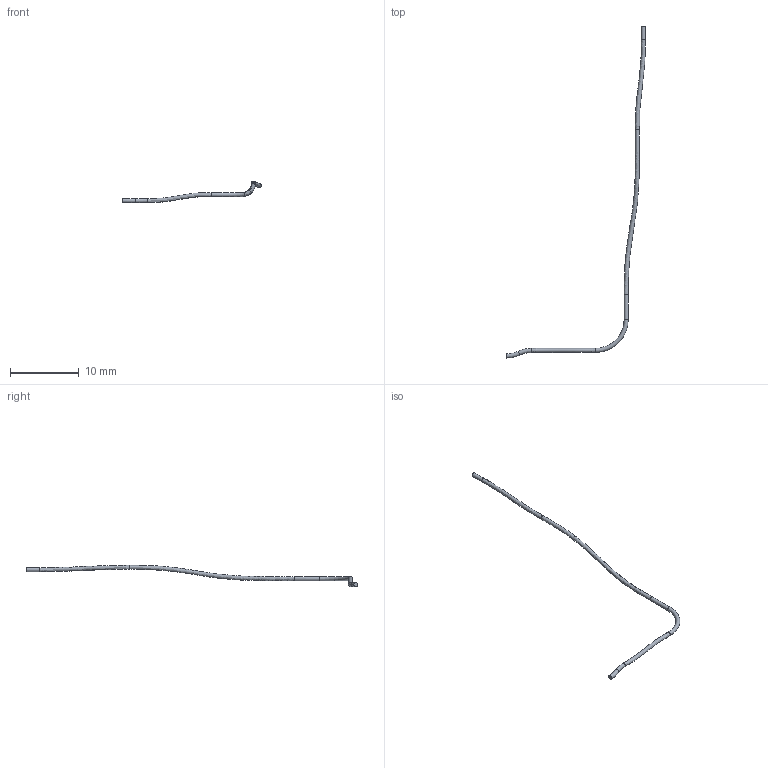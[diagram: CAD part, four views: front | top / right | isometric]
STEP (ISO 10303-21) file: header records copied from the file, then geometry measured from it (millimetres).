
FILE_DESCRIPTION(('FreeCAD Model'),'2;1');
FILE_NAME('Open CASCADE Shape Model','2026-11-12T12:42:11',('FreeCAD'),( 'FreeCAD'),'Open CASCADE STEP processor 7.8','FreeCAD','Unknown');
FILE_SCHEMA(('AUTOMOTIVE_DESIGN { 1 0 10303 214 1 1 1 1 }'));
Length unit declared in the file: millimetre
Products named in the file (1): Open CASCADE STEP translator 7.8 8
Bounding box: 20.23 x 48.34 x 3.1 mm (x, y, z)
Volume: 17.9 mm3; surface area: 119.6 mm2
Topology: 1 solids, 1 shells, 10 faces, 17 edges, 9 vertices
Faces by surface type: bspline 3, torus 3, cylinder 2, plane 2
Full cylindrical faces by diameter (mm): 0.6 x2
Entity records: 2676 total; most frequent: CARTESIAN_POINT 2496, DIRECTION 36, ORIENTED_EDGE 34, AXIS2_PLACEMENT_3D 17, EDGE_CURVE 17, ADVANCED_FACE 10, FACE_BOUND 10, EDGE_LOOP 10
